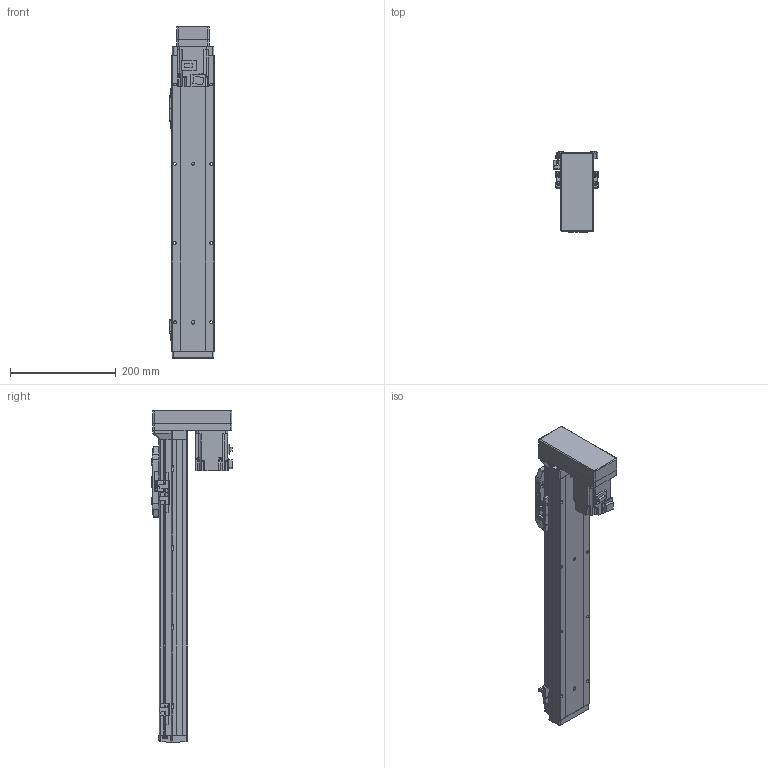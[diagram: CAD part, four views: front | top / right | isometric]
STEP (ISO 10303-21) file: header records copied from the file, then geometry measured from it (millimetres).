
FILE_DESCRIPTION (( 'STEP AP214' ), '1' );
FILE_NAME ('GSH8-400-BM-M20-1.step', '2025-01-07T06:08:14', ( '' ), ( '' ), 'SwSTEP 2.0', 'SolidWorks 2012', '' );
FILE_SCHEMA (( 'AUTOMOTIVE_DESIGN' ));
Length unit declared in the file: millimetre
Products named in the file (5): GSH8-BL-008; HG-KR23_200W_Motor; GSH8-400-BM-M20-1; GSH8-BL-011-400-M20; GSH8-GY-004
Assembly tree (4 placements, depth 2):
  GSH8-400-BM-M20-1
    GSH8-BL-011-400-M20
    GSH8-GY-004
    GSH8-BL-008
    HG-KR23_200W_Motor
Bounding box: 84 x 152.3 x 628.2 mm (x, y, z)
Volume: 1777469.6 mm3; surface area: 417396.8 mm2
Topology: 4 solids, 8 shells, 1103 faces, 2882 edges, 1852 vertices
Faces by surface type: plane 630, cylinder 377, torus 42, cone 26, bspline 24, sphere 4
Entity records: 43260 total; most frequent: CARTESIAN_POINT 9786, DIRECTION 5846, ORIENTED_EDGE 5748, EDGE_CURVE 2874, AXIS2_PLACEMENT_3D 1964, VECTOR 1918, LINE 1918, VERTEX_POINT 1848
